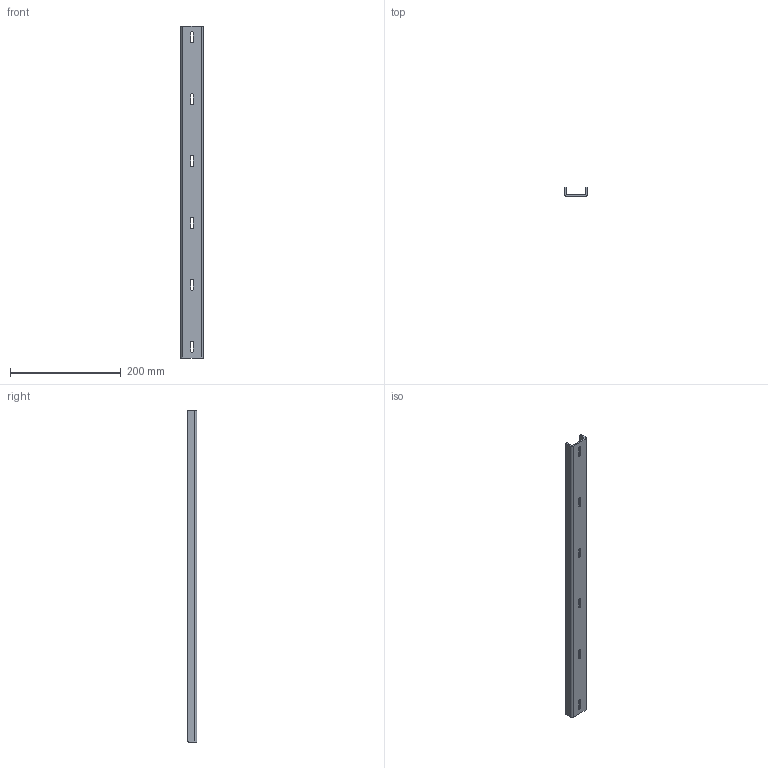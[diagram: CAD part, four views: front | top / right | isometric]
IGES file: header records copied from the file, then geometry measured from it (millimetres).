
Start section: SolidWorks IGES file using analytic representation for surfaces
Bounding box: 40 x 17 x 600 mm (x, y, z)
Surface area: 83294.5 mm2 (no closed solid volume)
Topology: 0 solids, 0 shells, 94 faces, 1118 edges, 1118 vertices
Faces by surface type: bspline 68, revolution 26
